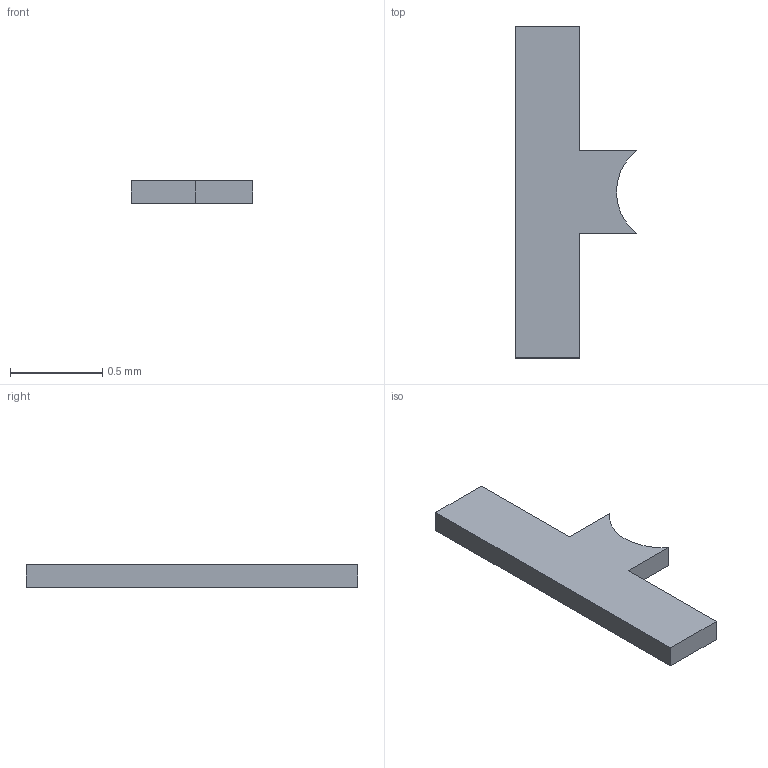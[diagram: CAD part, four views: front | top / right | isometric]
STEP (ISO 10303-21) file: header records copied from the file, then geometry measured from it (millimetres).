
FILE_DESCRIPTION(/* description */ ('STEP AP242 Edition 2','CAx-IF Rec.Pracs.---Representation and Presentation of Product Manufacturing Information (PMI)---4.0---2014-10-13','CAx-IF Rec.Pracs.---3D Tessellated Geometry---0.4---2014-09-14','2;1','CAx-IF Rec.Pracs.---User Defined Attributes---1.5---2016-08-15'),/* implementation_level */ '2;1');
FILE_NAME(/* name */ 'Assembly 1 - U.FL Connector v1 (2)',/* time_stamp */ '2026-09-16T18:36:11Z',/* author */ (''),/* organization */ (''),/* preprocessor_version */ 'ST-DEVELOPER v20',/* originating_system */ 'ONSHAPE BY PTC INC, 1.220',/* authorisation */ ' ');
FILE_SCHEMA (('AP242_MANAGED_MODEL_BASED_3D_ENGINEERING_MIM_LF { 1 0 10303 442 3 1 4 }'));
Length unit declared in the file: centimetre
Products named in the file (1): U.FL Connector v1
Bounding box: 0.66 x 1.8 x 0.12 mm (x, y, z)
Volume: 0.1 mm3; surface area: 2.1 mm2
Topology: 1 solids, 1 shells, 10 faces, 24 edges, 16 vertices
Faces by surface type: plane 9, cylinder 1
Entity records: 312 total; most frequent: CARTESIAN_POINT 51, ORIENTED_EDGE 48, DIRECTION 48, EDGE_CURVE 24, LINE 22, VECTOR 22, VERTEX_POINT 16, AXIS2_PLACEMENT_3D 13
